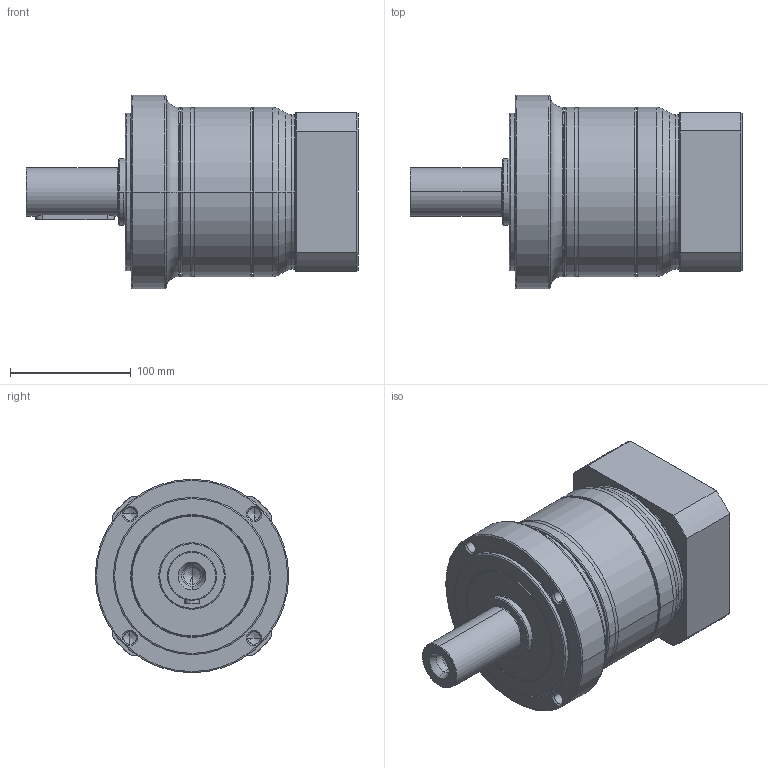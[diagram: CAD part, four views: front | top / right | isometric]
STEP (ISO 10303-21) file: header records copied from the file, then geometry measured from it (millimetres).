
FILE_DESCRIPTION((''),'2;1');
FILE_NAME('PG2-160_1ST_35-P0411800101_ASM','2016-04-12T',('d01943'),(''),'PRO/ENGINEER BY PARAMETRIC TECHNOLOGY CORPORATION, 2008410','PRO/ENGINEER BY PARAMETRIC TECHNOLOGY CORPORATION, 2008410','');
FILE_SCHEMA(('CONFIG_CONTROL_DESIGN'));
Length unit declared in the file: millimetre
Products named in the file (9): P1325510001; P0250500001; P1324500401; P0350501103; P0941504001; P0503800010; P0411800101; P1702600001; PG2-160_1ST_35-P0411800101_ASM
Assembly tree (8 placements, depth 2):
  PG2-160_1ST_35-P0411800101_ASM
    P1325510001
    P0250500001
    P1324500401
    P0350501103
    P0941504001
    P0503800010
    P0411800101
    P1702600001
Bounding box: 274.5 x 160 x 160 mm (x, y, z)
Volume: 2452517 mm3; surface area: 349746.8 mm2
Topology: 8 solids, 9 shells, 475 faces, 1046 edges, 601 vertices
Faces by surface type: cone 142, cylinder 140, torus 98, plane 79, bspline 16
Entity records: 17668 total; most frequent: CARTESIAN_POINT 6986, DIRECTION 2434, ORIENTED_EDGE 2024, AXIS2_PLACEMENT_3D 1044, EDGE_CURVE 1012, VERTEX_POINT 601, CIRCLE 568, EDGE_LOOP 539
